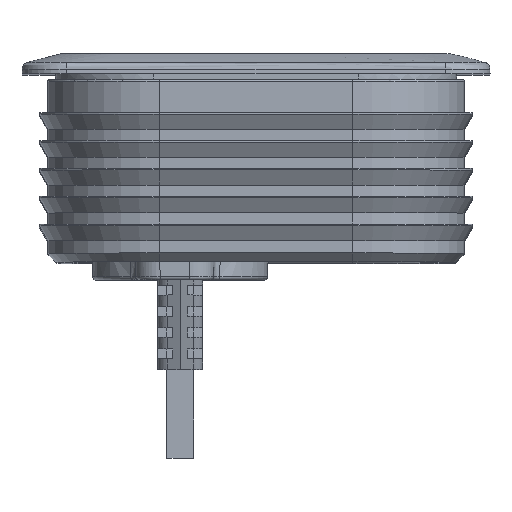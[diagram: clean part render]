
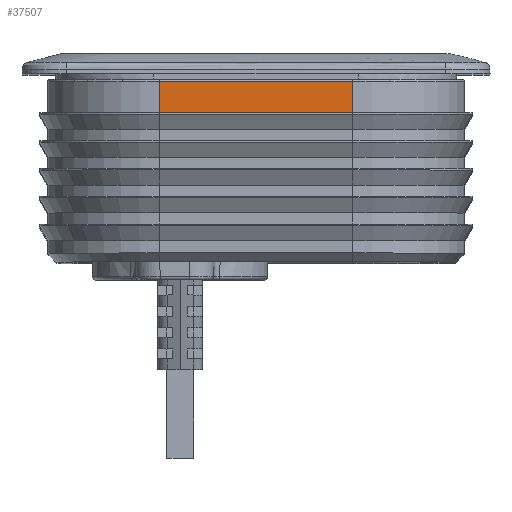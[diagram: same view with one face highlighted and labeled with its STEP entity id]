
A CAD part, top view. The second image highlights one B-rep face of the part: STEP entity #37507.
In plain terms, the highlighted planar face has unit normal (0, 0, 1).
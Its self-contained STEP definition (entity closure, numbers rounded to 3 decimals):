
#3772 = PLANE ( 'NONE',  #35802 ) ;
#4015 = VECTOR ( 'NONE', #28221, 1000. ) ;
#4350 = CARTESIAN_POINT ( 'NONE',  ( 8.685, -0.7, 45.01 ) ) ;
#4861 = ORIENTED_EDGE ( 'NONE', *, *, #34177, .T. ) ;
#7227 = VECTOR ( 'NONE', #15630, 1000. ) ;
#10593 = EDGE_LOOP ( 'NONE', ( #31893, #30266, #35767, #4861 ) ) ;
#10809 = CARTESIAN_POINT ( 'NONE',  ( 8.685, -3.5, 45.01 ) ) ;
#11548 = VECTOR ( 'NONE', #35641, 1000. ) ;
#12326 = VECTOR ( 'NONE', #26975, 1000. ) ;
#12344 = EDGE_CURVE ( 'NONE', #49027, #31394, #43719, .T. ) ;
#13560 = LINE ( 'NONE', #19036, #12326 ) ;
#15630 = DIRECTION ( 'NONE',  ( 0., 1., 0. ) ) ;
#15806 = CARTESIAN_POINT ( 'NONE',  ( -8.685, 0., 45.01 ) ) ;
#19036 = CARTESIAN_POINT ( 'NONE',  ( 19.535, -3.5, 45.01 ) ) ;
#22812 = EDGE_CURVE ( 'NONE', #31394, #42335, #36460, .T. ) ;
#23551 = CARTESIAN_POINT ( 'NONE',  ( 8.685, -0.5, 45.01 ) ) ;
#24325 = CARTESIAN_POINT ( 'NONE',  ( 8.685, 0., 45.01 ) ) ;
#26549 = CARTESIAN_POINT ( 'NONE',  ( 8.685, -0.7, 45.01 ) ) ;
#26975 = DIRECTION ( 'NONE',  ( 1., 0., 0. ) ) ;
#27114 = FACE_OUTER_BOUND ( 'NONE', #10593, .T. ) ;
#27460 = DIRECTION ( 'NONE',  ( 1., 0., 0. ) ) ;
#28001 = LINE ( 'NONE', #15806, #7227 ) ;
#28221 = DIRECTION ( 'NONE',  ( 0., -1., 0. ) ) ;
#30266 = ORIENTED_EDGE ( 'NONE', *, *, #12344, .F. ) ;
#31394 = VERTEX_POINT ( 'NONE', #26549 ) ;
#31893 = ORIENTED_EDGE ( 'NONE', *, *, #22812, .F. ) ;
#34177 = EDGE_CURVE ( 'NONE', #50394, #42335, #13560, .T. ) ;
#35641 = DIRECTION ( 'NONE',  ( 1., 0., 0. ) ) ;
#35767 = ORIENTED_EDGE ( 'NONE', *, *, #41950, .F. ) ;
#35802 = AXIS2_PLACEMENT_3D ( 'NONE', #23551, #50606, #27460 ) ;
#36460 = LINE ( 'NONE', #24325, #4015 ) ;
#37507 = ADVANCED_FACE ( 'NONE', ( #27114 ), #3772, .T. ) ;
#41866 = CARTESIAN_POINT ( 'NONE',  ( -8.685, -3.5, 45.01 ) ) ;
#41950 = EDGE_CURVE ( 'NONE', #50394, #49027, #28001, .T. ) ;
#42335 = VERTEX_POINT ( 'NONE', #10809 ) ;
#43719 = LINE ( 'NONE', #4350, #11548 ) ;
#44199 = CARTESIAN_POINT ( 'NONE',  ( -8.685, -0.7, 45.01 ) ) ;
#49027 = VERTEX_POINT ( 'NONE', #44199 ) ;
#50394 = VERTEX_POINT ( 'NONE', #41866 ) ;
#50606 = DIRECTION ( 'NONE',  ( 0., 0., 1. ) ) ;
